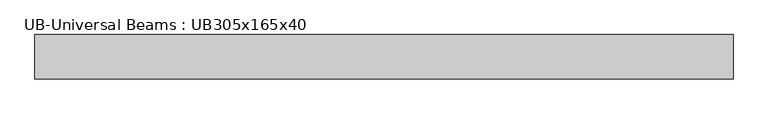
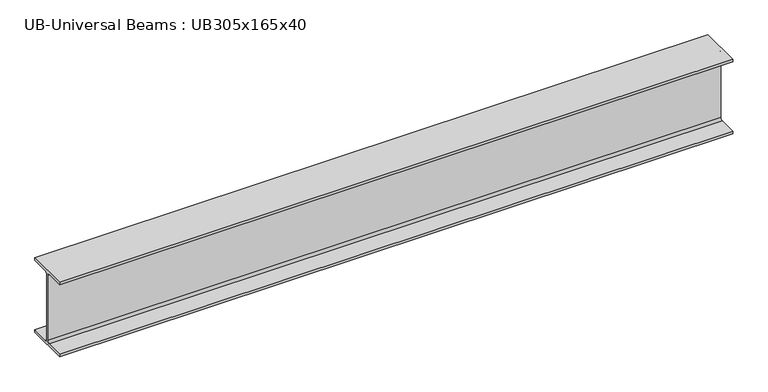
"""IFC4 building model written with IfcOpenShell, lengths in millimetres: beam geometry, UB-Universal Beams : UB305x165x40."""

from ifc_helpers import new_model, si_unit, point, frame, frame_2d, origin, place, context, project, spatial, polyline, circle_curve, trimmed, segment, composite_curve, outline, extrude, source, transform, mapped, element, save


def ub_universal_beams_ub305x165x40_19965e16(model_context):
    return source(origin(), model_context, "Body", "SweptSolid", [
        extrude(outline(composite_curve([segment(polyline([(82.5, -141.5), (82.5, -151.7), (-82.5, -151.7), (-82.5, -141.5), (-11.9, -141.5)]), True, "CONTINUOUS"), segment(trimmed(circle_curve(frame_2d((-11.9, -132.6)), 8.9), [point((-11.9, -141.5))], [point((-3.0, -132.6))], True, "CARTESIAN"), True, "CONTINUOUS"), segment(polyline([(-3.0, -132.6), (-3.0, 132.6)]), True, "CONTINUOUS"), segment(trimmed(circle_curve(frame_2d((-11.9, 132.6)), 8.9), [point((-3.0, 132.6))], [point((-11.9, 141.5))], True, "CARTESIAN"), True, "CONTINUOUS"), segment(polyline([(-11.9, 141.5), (-82.5, 141.5), (-82.5, 151.7), (82.5, 151.7), (82.5, 141.5), (11.9, 141.5)]), True, "CONTINUOUS"), segment(trimmed(circle_curve(frame_2d((11.9, 132.6)), 8.9), [point((11.9, 141.5))], [point((3.0, 132.6))], True, "CARTESIAN"), True, "CONTINUOUS"), segment(polyline([(3.0, 132.6), (3.0, -132.6)]), True, "CONTINUOUS"), segment(trimmed(circle_curve(frame_2d((11.9, -132.6)), 8.9), [point((3.0, -132.6))], [point((11.9, -141.5))], True, "CARTESIAN"), True, "CONTINUOUS"), segment(polyline([(11.9, -141.5), (82.5, -141.5)]), True, "CONTINUOUS")], self_intersect=False)), frame((-1298.75, 0.0, 0.0), z_axis=(1.0, 0.0, 0.0), x_axis=(0.0, 1.0, 0.0)), (0.0, 0.0, 1.0), 2597.5),
    ])


if __name__ == "__main__":
    model = new_model("IFC4")
    model_context = context("Model", 3, world=origin())
    ifc_project = project(units=[si_unit("LENGTHUNIT", "METRE", prefix="MILLI")], contexts=[model_context])
    site = spatial("IfcSite", under=ifc_project)
    building = spatial("IfcBuilding", under=site)
    placement = place(None, origin())
    ub_universal_beams_ub305x165x40_shape = ub_universal_beams_ub305x165x40_19965e16(model_context)
    element("IfcBeam", 1, ObjectType="UB-Universal Beams : UB305x165x40", at=placement, inside=building, context=model_context, shape_type="MappedRepresentation", body=[
        mapped(ub_universal_beams_ub305x165x40_shape, transform((0.0, 0.0, 0.0), x_axis=(1.0, 0.0, 0.0), y_axis=(0.0, 1.0, 0.0), z_axis=(0.0, 0.0, 1.0))),
    ])
    save(model, "model.ifc")
